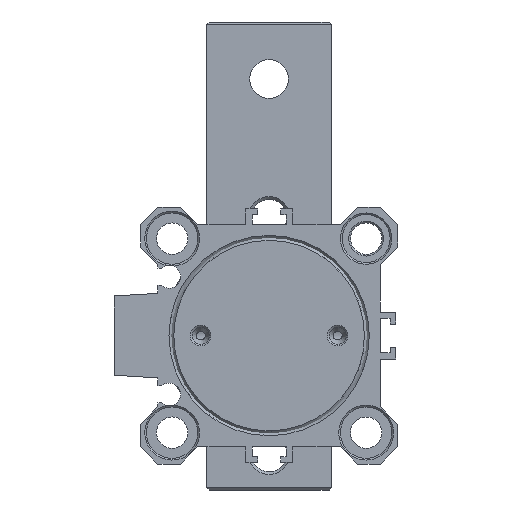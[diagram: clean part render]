
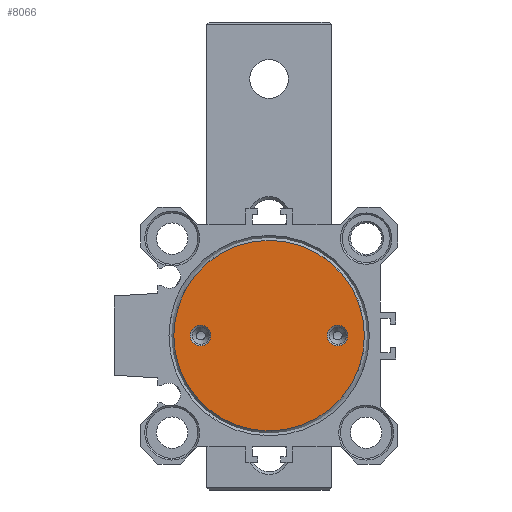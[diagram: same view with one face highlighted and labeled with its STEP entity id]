
A CAD part, front view. The second image highlights one B-rep face of the part: STEP entity #8066.
In plain terms, the highlighted planar face has unit normal (0, -1, 0).
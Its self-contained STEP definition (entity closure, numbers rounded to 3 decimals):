
#170=FACE_BOUND('',#1335,.T.);
#171=FACE_BOUND('',#1336,.T.);
#342=PLANE('',#9062);
#827=FACE_OUTER_BOUND('',#1334,.T.);
#1334=EDGE_LOOP('',(#6877,#6878));
#1335=EDGE_LOOP('',(#6879,#6880));
#1336=EDGE_LOOP('',(#6881,#6882));
#2876=CIRCLE('',#8956,1.8);
#2877=CIRCLE('',#8957,1.8);
#2880=CIRCLE('',#8961,1.8);
#2881=CIRCLE('',#8962,1.8);
#2887=CIRCLE('',#8973,16.7);
#2888=CIRCLE('',#8974,16.7);
#3716=VERTEX_POINT('',#14464);
#3717=VERTEX_POINT('',#14466);
#3720=VERTEX_POINT('',#14474);
#3721=VERTEX_POINT('',#14476);
#3738=VERTEX_POINT('',#14721);
#3739=VERTEX_POINT('',#14723);
#4767=EDGE_CURVE('',#3717,#3716,#2876,.T.);
#4768=EDGE_CURVE('',#3716,#3717,#2877,.T.);
#4772=EDGE_CURVE('',#3721,#3720,#2880,.T.);
#4773=EDGE_CURVE('',#3720,#3721,#2881,.T.);
#4794=EDGE_CURVE('',#3739,#3738,#2887,.T.);
#4795=EDGE_CURVE('',#3738,#3739,#2888,.T.);
#6877=ORIENTED_EDGE('',*,*,#4794,.T.);
#6878=ORIENTED_EDGE('',*,*,#4795,.T.);
#6879=ORIENTED_EDGE('',*,*,#4772,.T.);
#6880=ORIENTED_EDGE('',*,*,#4773,.T.);
#6881=ORIENTED_EDGE('',*,*,#4767,.T.);
#6882=ORIENTED_EDGE('',*,*,#4768,.T.);
#8066=ADVANCED_FACE('',(#827,#170,#171),#342,.T.);
#8956=AXIS2_PLACEMENT_3D('',#14467,#10991,#10992);
#8957=AXIS2_PLACEMENT_3D('',#14468,#10993,#10994);
#8961=AXIS2_PLACEMENT_3D('',#14477,#11002,#11003);
#8962=AXIS2_PLACEMENT_3D('',#14478,#11004,#11005);
#8973=AXIS2_PLACEMENT_3D('',#14724,#11031,#11032);
#8974=AXIS2_PLACEMENT_3D('',#14725,#11033,#11034);
#9062=AXIS2_PLACEMENT_3D('',#14870,#11219,#11220);
#10991=DIRECTION('center_axis',(0.,1.,0.));
#10992=DIRECTION('ref_axis',(0.,0.,-1.));
#10993=DIRECTION('center_axis',(0.,1.,0.));
#10994=DIRECTION('ref_axis',(0.,0.,-1.));
#11002=DIRECTION('center_axis',(0.,1.,0.));
#11003=DIRECTION('ref_axis',(0.,0.,-1.));
#11004=DIRECTION('center_axis',(0.,1.,0.));
#11005=DIRECTION('ref_axis',(0.,0.,-1.));
#11031=DIRECTION('center_axis',(0.,-1.,0.));
#11032=DIRECTION('ref_axis',(0.,0.,-1.));
#11033=DIRECTION('center_axis',(0.,-1.,0.));
#11034=DIRECTION('ref_axis',(0.,0.,-1.));
#11219=DIRECTION('center_axis',(0.,-1.,0.));
#11220=DIRECTION('ref_axis',(0.,0.,-1.));
#14464=CARTESIAN_POINT('',(493.815,174.456,1.8));
#14466=CARTESIAN_POINT('',(493.815,174.456,-1.8));
#14467=CARTESIAN_POINT('Origin',(493.815,174.456,0.));
#14468=CARTESIAN_POINT('Origin',(493.815,174.456,0.));
#14474=CARTESIAN_POINT('',(469.815,174.456,1.8));
#14476=CARTESIAN_POINT('',(469.815,174.456,-1.8));
#14477=CARTESIAN_POINT('Origin',(469.815,174.456,0.));
#14478=CARTESIAN_POINT('Origin',(469.815,174.456,0.));
#14721=CARTESIAN_POINT('',(481.815,174.456,-16.7));
#14723=CARTESIAN_POINT('',(481.815,174.456,16.7));
#14724=CARTESIAN_POINT('Origin',(481.815,174.456,0.));
#14725=CARTESIAN_POINT('Origin',(481.815,174.456,0.));
#14870=CARTESIAN_POINT('Origin',(481.815,174.456,0.));
